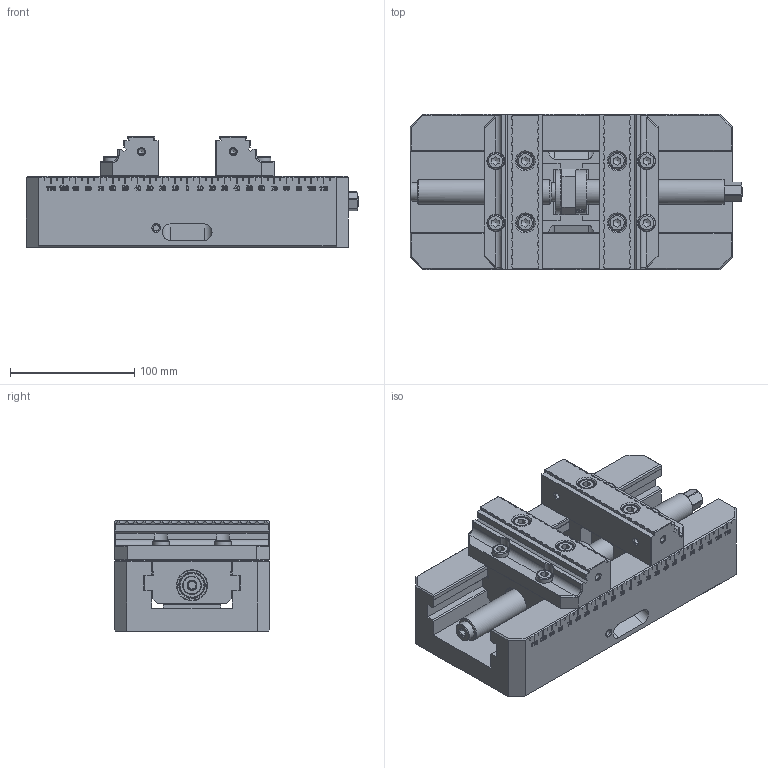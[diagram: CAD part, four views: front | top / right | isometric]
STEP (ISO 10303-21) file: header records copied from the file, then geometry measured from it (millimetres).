
FILE_DESCRIPTION (( 'STEP AP203' ), '1' );
FILE_NAME ('1AZV526GA0101-無LOGO.STEP', '2026-03-26T14:03:47', ( '' ), ( '' ), 'SwSTEP 2.0', 'SolidWorks 2024', '' );
FILE_SCHEMA (( 'CONFIG_CONTROL_DESIGN' ));
Length unit declared in the file: millimetre
Products named in the file (41): 1AZV526GA0101-無LOGO; 1AZV526GA010139; 1AZV526GA01012; 1AZV526GA01019; 1AZV526GA010120; 1AZV526GA01018; 1AZV526GA010128; 1AZV526GA010138; 1AZV526GA01017; 1AZV526GA010133; 1AZV526GA010114; 1AZV526GA010136; 1AZV526GA010113; 1AZV526GA010111; 1AZV526GA010119; 1AZV526GA010129; 1AZV526GA010127; 1AZV526GA010130; 1AZV526GA01013; 1AZV526GA010115; 1AZV526GA01016; 1AZV526GA010132; 1AZV526GA01015; 1AZV526GA010117; 1AZV526GA010110; 1AZV526GA010125; 1AZV526GA010140; 1AZV526GA010137; 1AZV526GA010124; 1AZV526GA01011; 1AZV526GA010116; 1AZV526GA01014; 1AZV526GA010118; 1AZV526GA010134; 1AZV526GA010112; 1AZV526GA010122; 1AZV526GA010121; 1AZV526GA010135; 1AZV526GA010131; 1AZV526GA010123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
Assembly tree (40 placements, depth 2):
  1AZV526GA0101-無LOGO
    1AZV526GA01011
    1AZV526GA01012
    1AZV526GA01013
    1AZV526GA01014
    1AZV526GA01015
    1AZV526GA01016
    1AZV526GA01017
    1AZV526GA01018
    1AZV526GA01019
    1AZV526GA010110
    1AZV526GA010111
    1AZV526GA010112
    1AZV526GA010113
    1AZV526GA010114
    1AZV526GA010115
    1AZV526GA010116
    1AZV526GA010117
    1AZV526GA010118
    1AZV526GA010119
    1AZV526GA010120
    1AZV526GA010121
    1AZV526GA010122
    1AZV526GA010123
    1AZV526GA010124
    1AZV526GA010125
    1AZV526GA010126
    1AZV526GA010127
    1AZV526GA010128
    1AZV526GA010129
    1AZV526GA010130
    1AZV526GA010131
    1AZV526GA010132
    1AZV526GA010133
    1AZV526GA010134
    1AZV526GA010135
    1AZV526GA010136
    1AZV526GA010137
    1AZV526GA010138
    1AZV526GA010139
    1AZV526GA010140
Bounding box: 267.72 x 125 x 89 mm (x, y, z)
Volume: 1654309.7 mm3; surface area: 238475 mm2
Topology: 40 solids, 40 shells, 3094 faces, 8206 edges, 5347 vertices
Faces by surface type: plane 1594, bspline 1022, cylinder 287, cone 139, sphere 32, torus 20
Full cylindrical faces by diameter (mm): 3 x4, 3.242 x4, 4.5 x4, 4.917 x10, 6.1 x4, 6.647 x8, 8 x8, 8.5 x4, 9 x8, 10 x1, 13 x8, 14 x8, 15 x3, 16 x4, 18.7 x1, 20 x8, 24 x2, 35 x6
Entity records: 171991 total; most frequent: CARTESIAN_POINT 110483, ORIENTED_EDGE 15796, EDGE_CURVE 7898, B_SPLINE_CURVE_WITH_KNOTS 7784, VERTEX_POINT 5298, DIRECTION 4426, EDGE_LOOP 3670, FACE_OUTER_BOUND 3222
